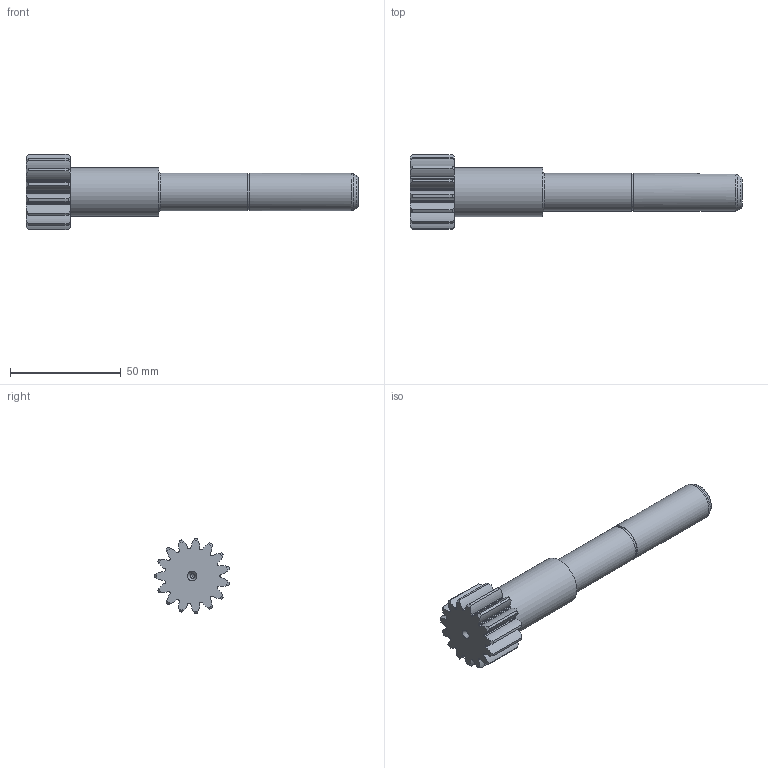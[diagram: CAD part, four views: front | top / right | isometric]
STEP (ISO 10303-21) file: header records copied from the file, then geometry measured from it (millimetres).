
FILE_DESCRIPTION(/* description */ (''),/* implementation_level */ '2;1');
FILE_NAME(/* name */ '',/* time_stamp */ '2026-04-27T11:29:14+09:00',/* author */ ('jhkim'),/* organization */ (''),/* preprocessor_version */ 'ST-DEVELOPER v20.1',/* originating_system */ 'Autodesk Inventor 2027',/* authorisation */ '');
FILE_SCHEMA (('AUTOMOTIVE_DESIGN { 1 0 10303 214 3 1 1 }'));
Length unit declared in the file: millimetre
Products named in the file (1): 선 기어 축
Bounding box: 150 x 33.74 x 33.91 mm (x, y, z)
Volume: 49182.1 mm3; surface area: 12602.8 mm2
Topology: 1 solids, 1 shells, 144 faces, 411 edges, 273 vertices
Faces by surface type: cylinder 97, cone 35, plane 9, torus 3
Full cylindrical faces by diameter (mm): 2 x2, 16.2 x1, 17 x2, 22 x1
Entity records: 4944 total; most frequent: CARTESIAN_POINT 1053, DIRECTION 863, ORIENTED_EDGE 818, EDGE_CURVE 409, AXIS2_PLACEMENT_3D 377, VERTEX_POINT 273, CIRCLE 232, EDGE_LOOP 150
